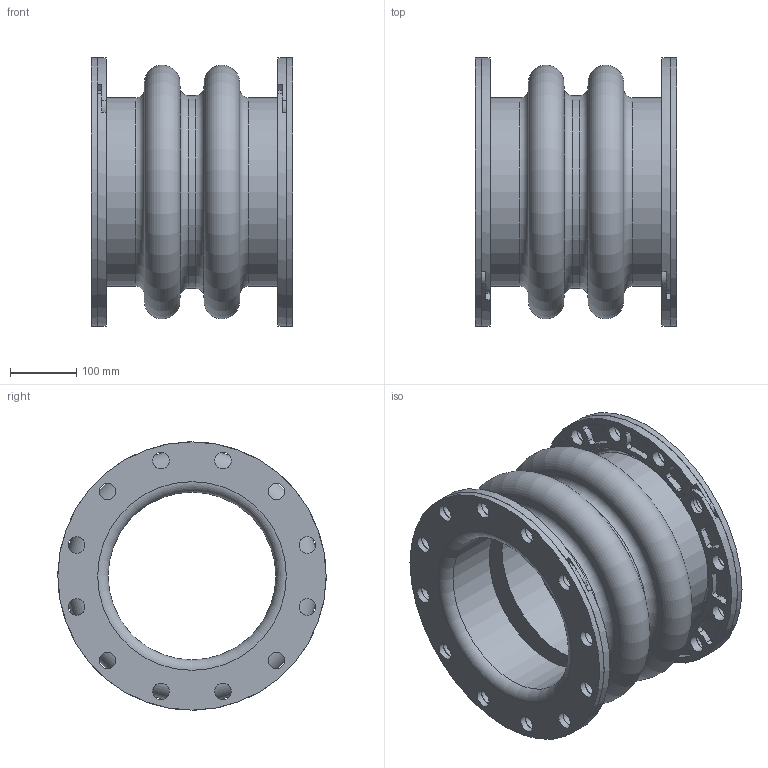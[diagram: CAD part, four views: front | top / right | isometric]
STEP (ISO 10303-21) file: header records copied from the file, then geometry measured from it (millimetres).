
FILE_DESCRIPTION(/* description */ (''),/* implementation_level */ '2;1');
FILE_NAME(/* name */ 'C:\001_Work\Designs\Mercer2014\MQInventor2014\RajR\500 Style\502\STP\502 10IDx12FF.stp',/* time_stamp */ '2016-03-16T14:50:18-04:00',/* author */ ('mquog'),/* organization */ (''),/* preprocessor_version */ 'ST-DEVELOPER v15.2',/* originating_system */ 'Autodesk Inventor 2014',/* authorisation */ '');
FILE_SCHEMA (('AUTOMOTIVE_DESIGN { 1 0 10303 214 3 1 1 }'));
Length unit declared in the file: centimetre
Products named in the file (1): 502 10IDx12FF
Bounding box: 304.8 x 406.4 x 406.4 mm (x, y, z)
Volume: 8857119.7 mm3; surface area: 1453124.4 mm2
Topology: 3 solids, 3 shells, 364 faces, 968 edges, 632 vertices
Faces by surface type: cylinder 268, plane 68, torus 20, cone 8
Full cylindrical faces by diameter (mm): 25.4 x52, 254 x3, 285.75 x2, 292.1 x1, 406.4 x2
Entity records: 11927 total; most frequent: DIRECTION 2178, CARTESIAN_POINT 2069, ORIENTED_EDGE 1768, AXIS2_PLACEMENT_3D 945, EDGE_CURVE 884, VERTEX_POINT 628, CIRCLE 580, EDGE_LOOP 568
